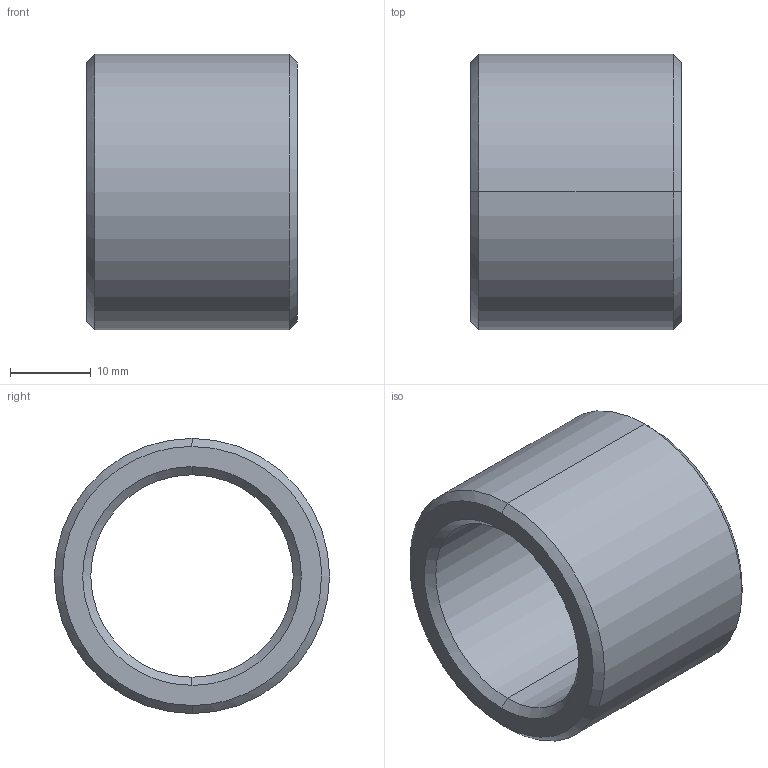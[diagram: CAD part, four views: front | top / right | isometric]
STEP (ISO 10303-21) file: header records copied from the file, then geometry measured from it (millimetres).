
FILE_DESCRIPTION(('CATIA V5 STEP Exchange'),'2;1');
FILE_NAME('C:\Users\Utente\Desktop\IO LAVORO\3D X SITO CF\X SITO\PLASTICA\352\352-25X26.stp','2021-04-15T06:13:28+00:00',('none'),('none'),'CATIA Version 5 Release 20 GA (IN-10)','CATIA V5 STEP AP203','none');
FILE_SCHEMA(('CONFIG_CONTROL_DESIGN'));
Length unit declared in the file: millimetre
Products named in the file (1): 352-25X26
Bounding box: 26 x 34 x 34 mm (x, y, z)
Volume: 10681 mm3; surface area: 5447.6 mm2
Topology: 1 solids, 1 shells, 14 faces, 44 edges, 32 vertices
Faces by surface type: cone 6, cylinder 4, plane 2, torus 2
Entity records: 634 total; most frequent: CARTESIAN_POINT 203, ORIENTED_EDGE 88, DIRECTION 64, EDGE_CURVE 44, AXIS2_PLACEMENT_3D 41, VERTEX_POINT 32, CIRCLE 26, EDGE_LOOP 16
